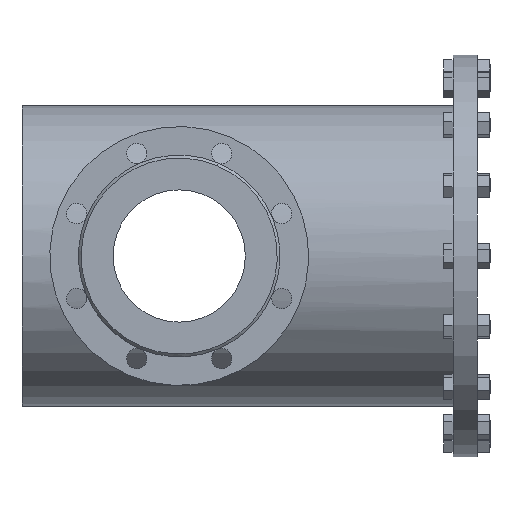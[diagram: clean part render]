
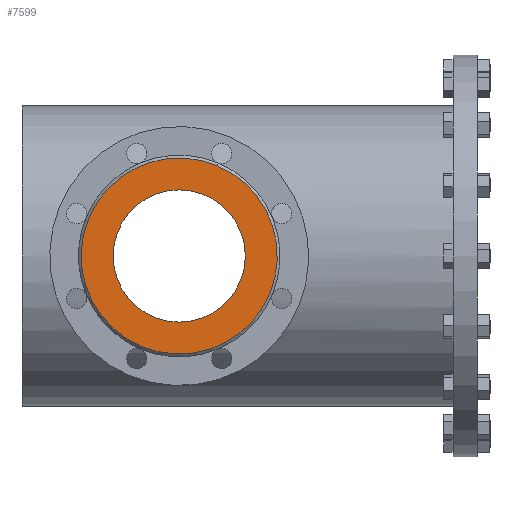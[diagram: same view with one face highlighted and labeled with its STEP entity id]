
A CAD part, left-side view. The second image highlights one B-rep face of the part: STEP entity #7599.
In plain terms, the highlighted planar face has unit normal (-1, 0, 0).
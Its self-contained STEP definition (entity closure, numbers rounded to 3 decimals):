
#30 = VERTEX_POINT ( 'NONE', #2817 ) ;
#61 = DIRECTION ( 'NONE',  ( -1., 0., 0. ) ) ;
#791 = CARTESIAN_POINT ( 'NONE',  ( -263., 300., -71.5 ) ) ;
#1069 = FACE_OUTER_BOUND ( 'NONE', #5448, .T. ) ;
#1123 = DIRECTION ( 'NONE',  ( 0., 0.383, -0.924 ) ) ;
#1152 = CARTESIAN_POINT ( 'NONE',  ( -263., 259.436, 97.931 ) ) ;
#1457 = DIRECTION ( 'NONE',  ( -1., 0., 0. ) ) ;
#1552 = AXIS2_PLACEMENT_3D ( 'NONE', #8799, #10123, #5579 ) ;
#1779 = VERTEX_POINT ( 'NONE', #5373 ) ;
#2032 = FACE_BOUND ( 'NONE', #3816, .T. ) ;
#2040 = AXIS2_PLACEMENT_3D ( 'NONE', #7927, #61, #6250 ) ;
#2248 = CARTESIAN_POINT ( 'NONE',  ( -263., 300., 0. ) ) ;
#2480 = DIRECTION ( 'NONE',  ( 0., -0.383, 0.924 ) ) ;
#2537 = DIRECTION ( 'NONE',  ( -1., 0., 0. ) ) ;
#2641 = VERTEX_POINT ( 'NONE', #791 ) ;
#2817 = CARTESIAN_POINT ( 'NONE',  ( -263., 300., 71.5 ) ) ;
#3034 = DIRECTION ( 'NONE',  ( 0., 0., -1. ) ) ;
#3300 = AXIS2_PLACEMENT_3D ( 'NONE', #8073, #3746, #1123 ) ;
#3524 = EDGE_CURVE ( 'NONE', #2641, #30, #3542, .T. ) ;
#3542 = CIRCLE ( 'NONE', #1552, 71.5 ) ;
#3746 = DIRECTION ( 'NONE',  ( 1., 0., 0. ) ) ;
#3816 = EDGE_LOOP ( 'NONE', ( #3988, #10530 ) ) ;
#3988 = ORIENTED_EDGE ( 'NONE', *, *, #3524, .F. ) ;
#4196 = CARTESIAN_POINT ( 'NONE',  ( -263., 300., 0. ) ) ;
#4233 = AXIS2_PLACEMENT_3D ( 'NONE', #4196, #2537, #2480 ) ;
#5373 = CARTESIAN_POINT ( 'NONE',  ( -263., 340.564, -97.931 ) ) ;
#5421 = PLANE ( 'NONE',  #3300 ) ;
#5448 = EDGE_LOOP ( 'NONE', ( #9529, #10511 ) ) ;
#5579 = DIRECTION ( 'NONE',  ( 0., 0., -1. ) ) ;
#5648 = EDGE_CURVE ( 'NONE', #9095, #1779, #6639, .T. ) ;
#5699 = EDGE_CURVE ( 'NONE', #1779, #9095, #11228, .T. ) ;
#6250 = DIRECTION ( 'NONE',  ( 0., -0.383, 0.924 ) ) ;
#6639 = CIRCLE ( 'NONE', #2040, 106. ) ;
#6759 = AXIS2_PLACEMENT_3D ( 'NONE', #2248, #1457, #3034 ) ;
#7322 = CIRCLE ( 'NONE', #6759, 71.5 ) ;
#7599 = ADVANCED_FACE ( 'NONE', ( #2032, #1069 ), #5421, .F. ) ;
#7927 = CARTESIAN_POINT ( 'NONE',  ( -263., 300., 0. ) ) ;
#8073 = CARTESIAN_POINT ( 'NONE',  ( -263., 300., 0. ) ) ;
#8799 = CARTESIAN_POINT ( 'NONE',  ( -263., 300., 0. ) ) ;
#9095 = VERTEX_POINT ( 'NONE', #1152 ) ;
#9529 = ORIENTED_EDGE ( 'NONE', *, *, #5699, .T. ) ;
#10123 = DIRECTION ( 'NONE',  ( -1., 0., 0. ) ) ;
#10511 = ORIENTED_EDGE ( 'NONE', *, *, #5648, .T. ) ;
#10530 = ORIENTED_EDGE ( 'NONE', *, *, #10922, .F. ) ;
#10922 = EDGE_CURVE ( 'NONE', #30, #2641, #7322, .T. ) ;
#11228 = CIRCLE ( 'NONE', #4233, 106. ) ;
